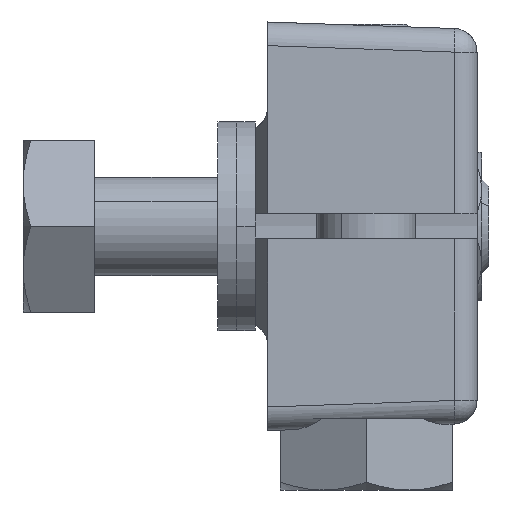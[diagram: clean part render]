
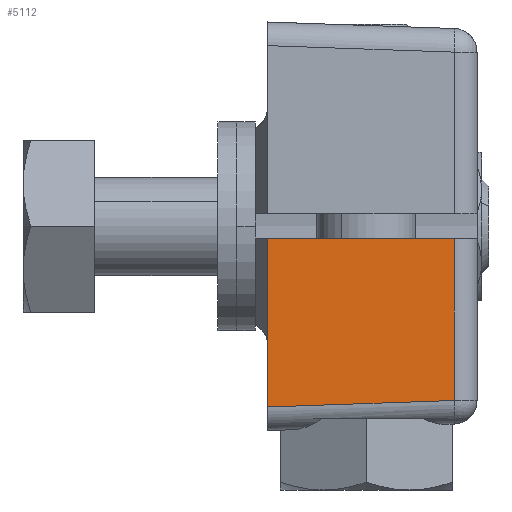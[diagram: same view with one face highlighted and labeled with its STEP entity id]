
A CAD part, left-side view. The second image highlights one B-rep face of the part: STEP entity #5112.
In plain terms, the highlighted planar face has unit normal (-0.999, -0.035, 0).
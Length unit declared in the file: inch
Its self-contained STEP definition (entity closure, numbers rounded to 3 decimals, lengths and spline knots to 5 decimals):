
#352 = CARTESIAN_POINT ( 'NONE',  ( -2.43521, -0.06549, -0.87779 ) ) ;
#388 = CARTESIAN_POINT ( 'NONE',  ( -2.44154, 0.11581, -0.88412 ) ) ;
#730 = VECTOR ( 'NONE', #4956, 39.37008 ) ;
#846 = CARTESIAN_POINT ( 'NONE',  ( -2.4746, 1.0625, -0.91718 ) ) ;
#1590 = LINE ( 'NONE', #3000, #730 ) ;
#1731 = CARTESIAN_POINT ( 'NONE',  ( -2.4746, 1.0625, -1. ) ) ;
#1956 = VECTOR ( 'NONE', #4574, 39.37008 ) ;
#2000 = VERTEX_POINT ( 'NONE', #846 ) ;
#2068 = LINE ( 'NONE', #6044, #1956 ) ;
#2087 = CARTESIAN_POINT ( 'NONE',  ( -2.4746, 1.0625, -0.60533 ) ) ;
#2262 = VERTEX_POINT ( 'NONE', #2087 ) ;
#2420 = DIRECTION ( 'NONE',  ( -0.999, -0.035, 0. ) ) ;
#2550 = FACE_OUTER_BOUND ( 'NONE', #6383, .T. ) ;
#2559 = ORIENTED_EDGE ( 'NONE', *, *, #4243, .T. ) ;
#2982 = VERTEX_POINT ( 'NONE', #3124 ) ;
#2991 = AXIS2_PLACEMENT_3D ( 'NONE', #4903, #2420, #4417 ) ;
#3000 = CARTESIAN_POINT ( 'NONE',  ( -2.4375, 0., -0.0625 ) ) ;
#3079 = ORIENTED_EDGE ( 'NONE', *, *, #3823, .T. ) ;
#3124 = CARTESIAN_POINT ( 'NONE',  ( -2.44154, 0.11581, -0.0625 ) ) ;
#3143 = CARTESIAN_POINT ( 'NONE',  ( -2.4746, 1.0625, -0.0625 ) ) ;
#3381 = DIRECTION ( 'NONE',  ( 0.035, -0.999, 0.035 ) ) ;
#3625 = VECTOR ( 'NONE', #5135, 39.37008 ) ;
#3823 = EDGE_CURVE ( 'NONE', #6147, #2982, #2068, .T. ) ;
#3888 = PLANE ( 'NONE',  #2991 ) ;
#4188 = CARTESIAN_POINT ( 'NONE',  ( -2.4746, 1.0625, -1.0371 ) ) ;
#4243 = EDGE_CURVE ( 'NONE', #2982, #5333, #1590, .T. ) ;
#4417 = DIRECTION ( 'NONE',  ( 0.035, -0.999, 0. ) ) ;
#4574 = DIRECTION ( 'NONE',  ( 0., 0., 1. ) ) ;
#4760 = LINE ( 'NONE', #352, #6334 ) ;
#4763 = ORIENTED_EDGE ( 'NONE', *, *, #5487, .F. ) ;
#4868 = VECTOR ( 'NONE', #5687, 39.37008 ) ;
#4903 = CARTESIAN_POINT ( 'NONE',  ( -2.4375, 0., 1. ) ) ;
#4956 = DIRECTION ( 'NONE',  ( -0.035, 0.999, 0. ) ) ;
#5112 = ADVANCED_FACE ( 'NONE', ( #2550 ), #3888, .T. ) ;
#5135 = DIRECTION ( 'NONE',  ( 0., 0., 1. ) ) ;
#5229 = ORIENTED_EDGE ( 'NONE', *, *, #5729, .T. ) ;
#5333 = VERTEX_POINT ( 'NONE', #3143 ) ;
#5487 = EDGE_CURVE ( 'NONE', #2000, #2262, #6177, .T. ) ;
#5687 = DIRECTION ( 'NONE',  ( 0., 0., 1. ) ) ;
#5729 = EDGE_CURVE ( 'NONE', #2000, #6147, #4760, .T. ) ;
#5832 = EDGE_CURVE ( 'NONE', #2262, #5333, #5957, .T. ) ;
#5957 = LINE ( 'NONE', #4188, #3625 ) ;
#6044 = CARTESIAN_POINT ( 'NONE',  ( -2.44154, 0.11581, 1. ) ) ;
#6078 = ORIENTED_EDGE ( 'NONE', *, *, #5832, .F. ) ;
#6147 = VERTEX_POINT ( 'NONE', #388 ) ;
#6177 = LINE ( 'NONE', #1731, #4868 ) ;
#6334 = VECTOR ( 'NONE', #3381, 39.37008 ) ;
#6383 = EDGE_LOOP ( 'NONE', ( #3079, #2559, #6078, #4763, #5229 ) ) ;
